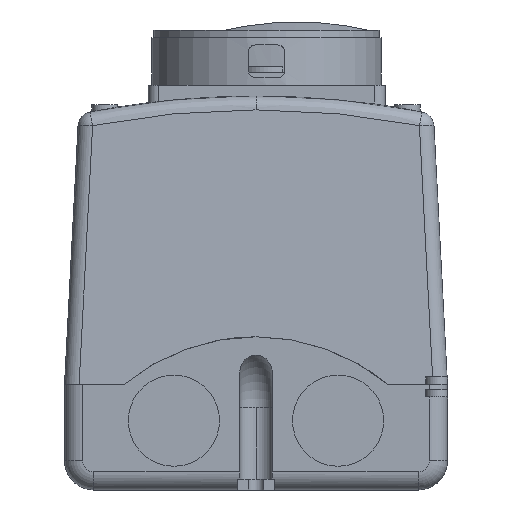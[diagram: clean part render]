
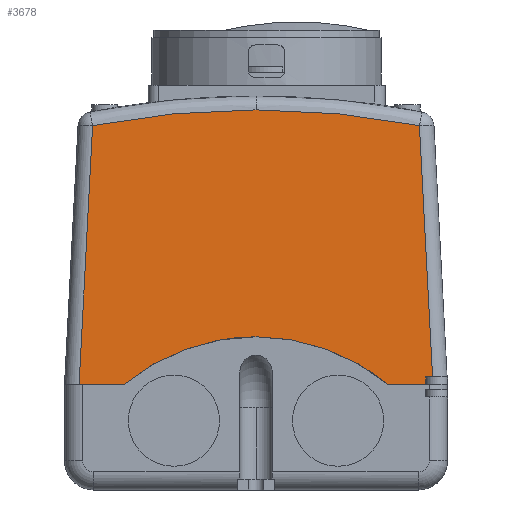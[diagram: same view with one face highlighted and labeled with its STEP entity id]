
A CAD part, front view. The second image highlights one B-rep face of the part: STEP entity #3678.
In plain terms, the highlighted planar face has unit normal (0, -0.999, 0.052).
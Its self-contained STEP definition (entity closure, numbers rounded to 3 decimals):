
#39 = CARTESIAN_POINT ( 'NONE',  ( 0., -150., 0. ) ) ;
#76 = EDGE_CURVE ( 'NONE', #6624, #3199, #4909, .T. ) ;
#184 = DIRECTION ( 'NONE',  ( 0., 0.052, 0.999 ) ) ;
#591 = CARTESIAN_POINT ( 'NONE',  ( 0., -150., 0. ) ) ;
#652 = VECTOR ( 'NONE', #12828, 1000. ) ;
#678 = DIRECTION ( 'NONE',  ( -0.052, 0.052, 0.997 ) ) ;
#759 = CARTESIAN_POINT ( 'NONE',  ( 0., -150., 0. ) ) ;
#1364 = CARTESIAN_POINT ( 'NONE',  ( -44.79, -146.284, 70.9 ) ) ;
#1508 = ORIENTED_EDGE ( 'NONE', *, *, #12281, .T. ) ;
#2109 = CARTESIAN_POINT ( 'NONE',  ( 0., -149.319, 13. ) ) ;
#2754 = CARTESIAN_POINT ( 'NONE',  ( 0., -149.895, 2. ) ) ;
#3199 = VERTEX_POINT ( 'NONE', #13239 ) ;
#3447 = ORIENTED_EDGE ( 'NONE', *, *, #14973, .T. ) ;
#3678 = ADVANCED_FACE ( 'NONE', ( #12171 ), #10076, .T. ) ;
#3785 = VECTOR ( 'NONE', #5518, 1000. ) ;
#3788 = DIRECTION ( 'NONE',  ( 0., -0.999, 0.052 ) ) ;
#3849 = CARTESIAN_POINT ( 'NONE',  ( 36., -150., 0. ) ) ;
#3860 = CARTESIAN_POINT ( 'NONE',  ( 15.045, -146.058, 75.209 ) ) ;
#3862 = VECTOR ( 'NONE', #678, 1000. ) ;
#4534 = CARTESIAN_POINT ( 'NONE',  ( -36., -150., 0. ) ) ;
#4538 = CARTESIAN_POINT ( 'NONE',  ( 0., -146.058, 75.209 ) ) ;
#4909 = LINE ( 'NONE', #39, #652 ) ;
#5210 = ORIENTED_EDGE ( 'NONE', *, *, #16611, .T. ) ;
#5228 = VERTEX_POINT ( 'NONE', #7535 ) ;
#5267 = VECTOR ( 'NONE', #184, 1000. ) ;
#5376 = CARTESIAN_POINT ( 'NONE',  ( -48.373, -149.868, 2.528 ) ) ;
#5387 = VERTEX_POINT ( 'NONE', #12923 ) ;
#5442 = VERTEX_POINT ( 'NONE', #14818 ) ;
#5518 = DIRECTION ( 'NONE',  ( 1., 0., 0. ) ) ;
#6624 = VERTEX_POINT ( 'NONE', #7864 ) ;
#6920 = CARTESIAN_POINT ( 'NONE',  ( 0., -149.319, 13. ) ) ;
#7430 = VERTEX_POINT ( 'NONE', #10898 ) ;
#7535 = CARTESIAN_POINT ( 'NONE',  ( 0., -146.058, 75.209 ) ) ;
#7715 = CARTESIAN_POINT ( 'NONE',  ( 0., -149.319, 13. ) ) ;
#7864 = CARTESIAN_POINT ( 'NONE',  ( 36., -150., 0. ) ) ;
#8505 = ORIENTED_EDGE ( 'NONE', *, *, #13039, .T. ) ;
#8613 = CARTESIAN_POINT ( 'NONE',  ( 13.285, -149.319, 13. ) ) ;
#8858 =( BOUNDED_CURVE ( )  B_SPLINE_CURVE ( 3, ( #4534, #14088, #17300, #7715 ),
 .UNSPECIFIED., .F., .F. ) 
 B_SPLINE_CURVE_WITH_KNOTS ( ( 4, 4 ),
 ( 5.59, 6.283 ),
 .UNSPECIFIED. ) 
 CURVE ( )  GEOMETRIC_REPRESENTATION_ITEM ( )  RATIONAL_B_SPLINE_CURVE ( ( 1., 0.96, 0.96, 1. ) ) 
 REPRESENTATION_ITEM ( '' )  );
#9019 = ORIENTED_EDGE ( 'NONE', *, *, #18304, .T. ) ;
#9764 = CARTESIAN_POINT ( 'NONE',  ( 46.5, -150., 0. ) ) ;
#9815 = EDGE_CURVE ( 'NONE', #5442, #7430, #16638, .T. ) ;
#10076 = PLANE ( 'NONE',  #19101 ) ;
#10567 = ORIENTED_EDGE ( 'NONE', *, *, #76, .T. ) ;
#10592 = ORIENTED_EDGE ( 'NONE', *, *, #11713, .T. ) ;
#10744 = DIRECTION ( 'NONE',  ( 1., 0., 0. ) ) ;
#10898 = CARTESIAN_POINT ( 'NONE',  ( 44.79, -146.284, 70.9 ) ) ;
#10899 = ORIENTED_EDGE ( 'NONE', *, *, #11210, .T. ) ;
#10940 = CARTESIAN_POINT ( 'NONE',  ( -30.021, -146.134, 73.768 ) ) ;
#11210 = EDGE_CURVE ( 'NONE', #7430, #5228, #13285, .T. ) ;
#11713 = EDGE_CURVE ( 'NONE', #5228, #17540, #15991, .T. ) ;
#11820 = CARTESIAN_POINT ( 'NONE',  ( 30.021, -146.134, 73.768 ) ) ;
#11846 = CARTESIAN_POINT ( 'NONE',  ( 48.373, -149.868, 2.528 ) ) ;
#12171 = FACE_OUTER_BOUND ( 'NONE', #18489, .T. ) ;
#12281 = EDGE_CURVE ( 'NONE', #17540, #5387, #19052, .T. ) ;
#12828 = DIRECTION ( 'NONE',  ( 1., 0., 0. ) ) ;
#12923 = CARTESIAN_POINT ( 'NONE',  ( -48.505, -150., 0. ) ) ;
#13039 = EDGE_CURVE ( 'NONE', #14118, #6624, #15132, .T. ) ;
#13239 = CARTESIAN_POINT ( 'NONE',  ( 46.5, -150., 0. ) ) ;
#13285 =( BOUNDED_CURVE ( )  B_SPLINE_CURVE ( 3, ( #18172, #11820, #3860, #15067 ),
 .UNSPECIFIED., .F., .F. ) 
 B_SPLINE_CURVE_WITH_KNOTS ( ( 4, 4 ),
 ( 6.091, 6.283 ),
 .UNSPECIFIED. ) 
 CURVE ( )  GEOMETRIC_REPRESENTATION_ITEM ( )  RATIONAL_B_SPLINE_CURVE ( ( 1., 0.997, 0.997, 1. ) ) 
 REPRESENTATION_ITEM ( '' )  );
#13400 = DIRECTION ( 'NONE',  ( -0.052, -0.052, -0.997 ) ) ;
#13420 = CARTESIAN_POINT ( 'NONE',  ( 25.78, -149.555, 8.488 ) ) ;
#13471 = ORIENTED_EDGE ( 'NONE', *, *, #9815, .T. ) ;
#13865 = CARTESIAN_POINT ( 'NONE',  ( 46.5, -149.895, 2. ) ) ;
#14088 = CARTESIAN_POINT ( 'NONE',  ( -25.78, -149.555, 8.488 ) ) ;
#14118 = VERTEX_POINT ( 'NONE', #2109 ) ;
#14818 = CARTESIAN_POINT ( 'NONE',  ( 48.401, -149.895, 2. ) ) ;
#14845 = VECTOR ( 'NONE', #13400, 1000. ) ;
#14973 = EDGE_CURVE ( 'NONE', #5387, #16108, #16056, .T. ) ;
#14990 = DIRECTION ( 'NONE',  ( 0., -0.052, -0.999 ) ) ;
#15067 = CARTESIAN_POINT ( 'NONE',  ( 0., -146.058, 75.209 ) ) ;
#15119 = VERTEX_POINT ( 'NONE', #13865 ) ;
#15132 =( BOUNDED_CURVE ( )  B_SPLINE_CURVE ( 3, ( #6920, #8613, #13420, #3849 ),
 .UNSPECIFIED., .F., .F. ) 
 B_SPLINE_CURVE_WITH_KNOTS ( ( 4, 4 ),
 ( 0., 0.693 ),
 .UNSPECIFIED. ) 
 CURVE ( )  GEOMETRIC_REPRESENTATION_ITEM ( )  RATIONAL_B_SPLINE_CURVE ( ( 1., 0.96, 0.96, 1. ) ) 
 REPRESENTATION_ITEM ( '' )  );
#15991 =( BOUNDED_CURVE ( )  B_SPLINE_CURVE ( 3, ( #4538, #20482, #10940, #1364 ),
 .UNSPECIFIED., .F., .F. ) 
 B_SPLINE_CURVE_WITH_KNOTS ( ( 4, 4 ),
 ( 0., 0.192 ),
 .UNSPECIFIED. ) 
 CURVE ( )  GEOMETRIC_REPRESENTATION_ITEM ( )  RATIONAL_B_SPLINE_CURVE ( ( 1., 0.997, 0.997, 1. ) ) 
 REPRESENTATION_ITEM ( '' )  );
#16056 = LINE ( 'NONE', #759, #3785 ) ;
#16108 = VERTEX_POINT ( 'NONE', #16813 ) ;
#16362 = VECTOR ( 'NONE', #10744, 1000. ) ;
#16611 = EDGE_CURVE ( 'NONE', #16108, #14118, #8858, .T. ) ;
#16638 = LINE ( 'NONE', #11846, #3862 ) ;
#16707 = EDGE_CURVE ( 'NONE', #3199, #15119, #17503, .T. ) ;
#16813 = CARTESIAN_POINT ( 'NONE',  ( -36., -150., 0. ) ) ;
#17300 = CARTESIAN_POINT ( 'NONE',  ( -13.285, -149.319, 13. ) ) ;
#17503 = LINE ( 'NONE', #9764, #5267 ) ;
#17540 = VERTEX_POINT ( 'NONE', #18314 ) ;
#18172 = CARTESIAN_POINT ( 'NONE',  ( 44.79, -146.284, 70.9 ) ) ;
#18304 = EDGE_CURVE ( 'NONE', #15119, #5442, #20050, .T. ) ;
#18314 = CARTESIAN_POINT ( 'NONE',  ( -44.79, -146.284, 70.9 ) ) ;
#18489 = EDGE_LOOP ( 'NONE', ( #10567, #19817, #9019, #13471, #10899, #10592, #1508, #3447, #5210, #8505 ) ) ;
#19052 = LINE ( 'NONE', #5376, #14845 ) ;
#19101 = AXIS2_PLACEMENT_3D ( 'NONE', #591, #3788, #14990 ) ;
#19817 = ORIENTED_EDGE ( 'NONE', *, *, #16707, .T. ) ;
#20050 = LINE ( 'NONE', #2754, #16362 ) ;
#20482 = CARTESIAN_POINT ( 'NONE',  ( -15.045, -146.058, 75.209 ) ) ;
